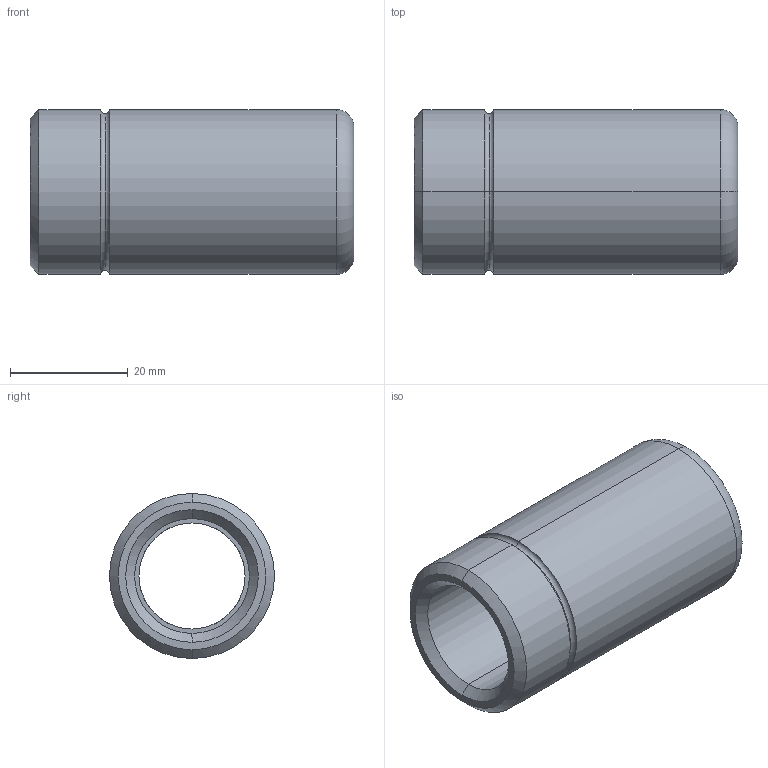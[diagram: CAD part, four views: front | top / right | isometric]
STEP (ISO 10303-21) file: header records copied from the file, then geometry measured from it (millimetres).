
FILE_DESCRIPTION(('CATIA V5 STEP Exchange'),'2;1');
FILE_NAME('C:\Users\Utente\Desktop\IO LAVORO\3D X SITO CF\X SITO\3D files 348\348-18 x 55.stp','2020-12-30T20:00:04+00:00',('none'),('none'),'CATIA Version 5 Release 20 GA (IN-10)','CATIA V5 STEP AP203','none');
FILE_SCHEMA(('CONFIG_CONTROL_DESIGN'));
Length unit declared in the file: millimetre
Products named in the file (1): 348-18 x 55
Bounding box: 55 x 28 x 28 mm (x, y, z)
Volume: 18399.1 mm3; surface area: 8681.5 mm2
Topology: 1 solids, 1 shells, 29 faces, 86 edges, 60 vertices
Faces by surface type: torus 12, cylinder 10, cone 4, plane 3
Entity records: 1160 total; most frequent: CARTESIAN_POINT 350, ORIENTED_EDGE 172, DIRECTION 132, AXIS2_PLACEMENT_3D 90, EDGE_CURVE 86, CIRCLE 60, VERTEX_POINT 60, EDGE_LOOP 32
